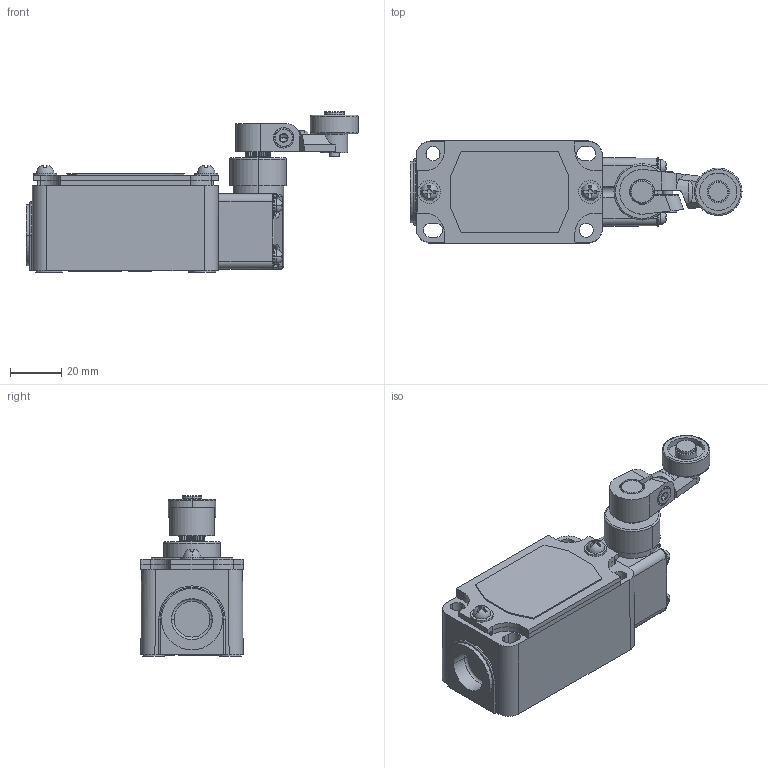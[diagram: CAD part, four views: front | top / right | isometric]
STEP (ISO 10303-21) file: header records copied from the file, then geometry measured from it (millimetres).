
FILE_DESCRIPTION((''),'2;1');
FILE_NAME('2ZTF618071_ASM','2021-06-05T',('zweif'),(''),'CREO PARAMETRIC BY PTC INC, 2018070','CREO PARAMETRIC BY PTC INC, 2018070','');
FILE_SCHEMA(('CONFIG_CONTROL_DESIGN'));
Length unit declared in the file: millimetre
Products named in the file (22): 8ZTF003019; 8ZTF043025; 8ZTF205042; 8ZTF300005; M3X28_GB823; D3_GB9074_26; D3_GB9074_24; M3X28_GB9074_8_ASM; 5ZTF043008_ASM; 8YS323000-K1; 5ZTF022015_ASM; 8ZTF232019; 8ZTF221015; 8ZTF205045; 5ZTF232013_ASM; M4X12_GB70; 8YSY156000; 8YSY314000; M4X8_GB823; D4_GB9074_24; M4X8_GB9074_5_ASM; 2ZTF618071_ASM
Assembly tree (25 placements, depth 5):
  2ZTF618071_ASM
    5ZTF022015_ASM
      8ZTF003019
      5ZTF043008_ASM
        8ZTF043025
        8ZTF205042
        8ZTF300005
        M3X28_GB9074_8_ASM  x4
          M3X28_GB823
          D3_GB9074_26
          D3_GB9074_24
      8YS323000-K1
    5ZTF232013_ASM
      8ZTF232019
      8ZTF221015
      8ZTF205045
    M4X12_GB70
    8YSY156000
    8YSY314000
    M4X8_GB9074_5_ASM  x2
      M4X8_GB823
      D4_GB9074_24
Bounding box: 129.9 x 40 x 62.8 mm (x, y, z)
Volume: 122145.6 mm3; surface area: 56151.3 mm2
Topology: 27 solids, 45 shells, 1234 faces, 3137 edges, 2036 vertices
Faces by surface type: plane 594, cylinder 343, extrusion 162, cone 52, torus 38, bspline 29, sphere 16
Entity records: 41143 total; most frequent: CARTESIAN_POINT 10026, ORIENTED_EDGE 5476, DIRECTION 4999, EDGE_CURVE 2761, VERTEX_POINT 1794, AXIS2_PLACEMENT_3D 1707, VECTOR 1585, LINE 1423
